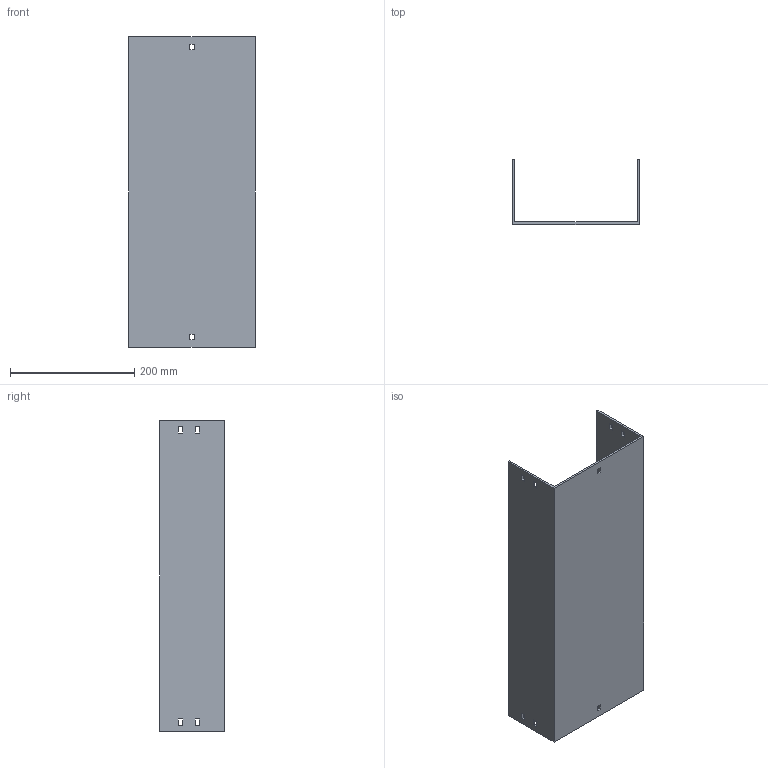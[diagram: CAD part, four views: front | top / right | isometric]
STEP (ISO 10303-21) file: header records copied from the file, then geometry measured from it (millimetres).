
FILE_DESCRIPTION (( 'STEP AP214' ), '1' );
FILE_NAME ('03F7D200.step', '2025-02-21T13:16:44', ( '' ), ( '' ), 'SwSTEP 2.0', 'SolidWorks 2023', '' );
FILE_SCHEMA (( 'AUTOMOTIVE_DESIGN' ));
Length unit declared in the file: millimetre
Products named in the file (1): 03F7D200
Bounding box: 204 x 104 x 500 mm (x, y, z)
Volume: 706380.5 mm3; surface area: 411150 mm2
Topology: 1 solids, 1 shells, 50 faces, 144 edges, 96 vertices
Faces by surface type: plane 50
Entity records: 1671 total; most frequent: CARTESIAN_POINT 291, ORIENTED_EDGE 288, DIRECTION 246, LINE 144, EDGE_CURVE 144, VECTOR 144, VERTEX_POINT 96, EDGE_LOOP 70
